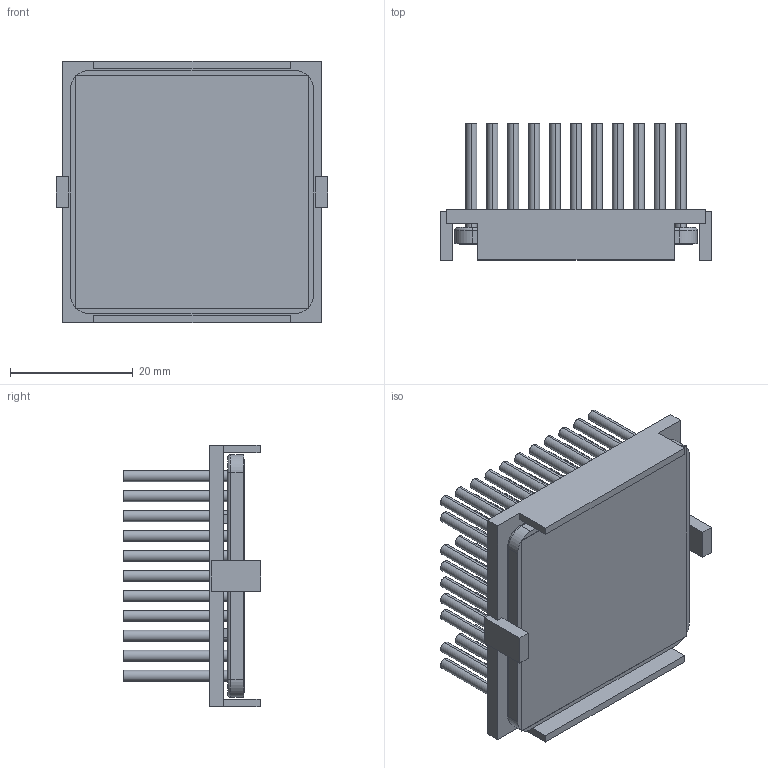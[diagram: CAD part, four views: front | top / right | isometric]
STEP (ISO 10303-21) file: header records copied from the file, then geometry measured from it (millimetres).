
FILE_DESCRIPTION (( 'STEP AP214' ), '1' );
FILE_NAME ('INM40002-20P-2.6K30.STEP', '2023-02-27T17:32:20', ( '' ), ( '' ), 'SwSTEP 2.0', 'SolidWorks 2020', '' );
FILE_SCHEMA (( 'AUTOMOTIVE_DESIGN' ));
Length unit declared in the file: inch
Products named in the file (1): INM40002-20P-2.6K30
Bounding box: 44.2 x 22.4 x 42.7 mm (x, y, z)
Volume: 11065.6 mm3; surface area: 20248.2 mm2
Topology: 3 solids, 3 shells, 417 faces, 886 edges, 588 vertices
Faces by surface type: cylinder 234, plane 179, torus 4
Entity records: 16915 total; most frequent: DIRECTION 2194, CARTESIAN_POINT 1892, ORIENTED_EDGE 1772, AXIS2_PLACEMENT_3D 890, EDGE_CURVE 886, VERTEX_POINT 588, EDGE_LOOP 532, CIRCLE 472
